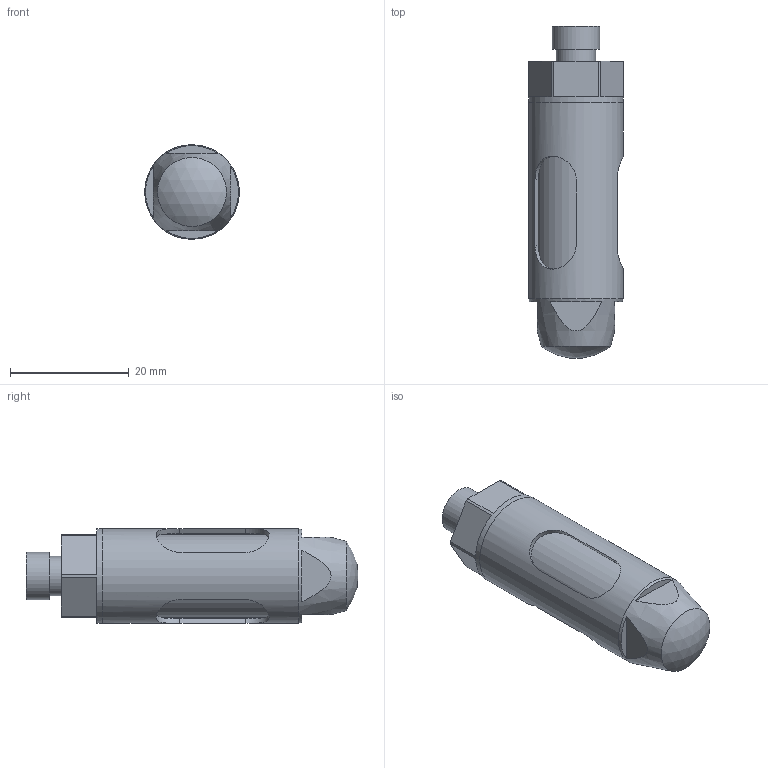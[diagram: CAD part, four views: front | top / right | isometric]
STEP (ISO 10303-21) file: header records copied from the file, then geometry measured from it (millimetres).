
FILE_DESCRIPTION(/* description */ (''),/* implementation_level */ '2;1');
FILE_NAME(/* name */ 'T:\Anwender\Praktikant\Tobias Könemund\Innengreifer\Parametrisch\G-GI016_vereinfacht.stp',/* time_stamp */ '2015-10-30T08:19:27+01:00',/* author */ ('Praktikant'),/* organization */ ('GRIP GmbH'),/* preprocessor_version */ 'ST-DEVELOPER v15.2',/* originating_system */ 'Autodesk Inventor 2014',/* authorisation */ '');
FILE_SCHEMA (('AUTOMOTIVE_DESIGN { 1 0 10303 214 3 1 1 }'));
Length unit declared in the file: millimetre
Products named in the file (3): G-GI016-2.1-1 Dorn_vereinfacht-05; G-GI016-1.1-1 Hülse_vereinfacht-14; Baugruppe_vereinfacht
Bounding box: 15.9 x 55.84 x 15.9 mm (x, y, z)
Volume: 8517.1 mm3; surface area: 5476.6 mm2
Topology: 2 solids, 2 shells, 49 faces, 115 edges, 76 vertices
Faces by surface type: plane 33, cylinder 13, cone 2, sphere 1
Full cylindrical faces by diameter (mm): 5 x1, 6.6 x1, 8 x1, 13.9 x1, 14.2 x1, 15.9 x2
Entity records: 1554 total; most frequent: CARTESIAN_POINT 434, DIRECTION 220, ORIENTED_EDGE 196, EDGE_CURVE 98, AXIS2_PLACEMENT_3D 84, EDGE_LOOP 72, VERTEX_POINT 70, LINE 52
